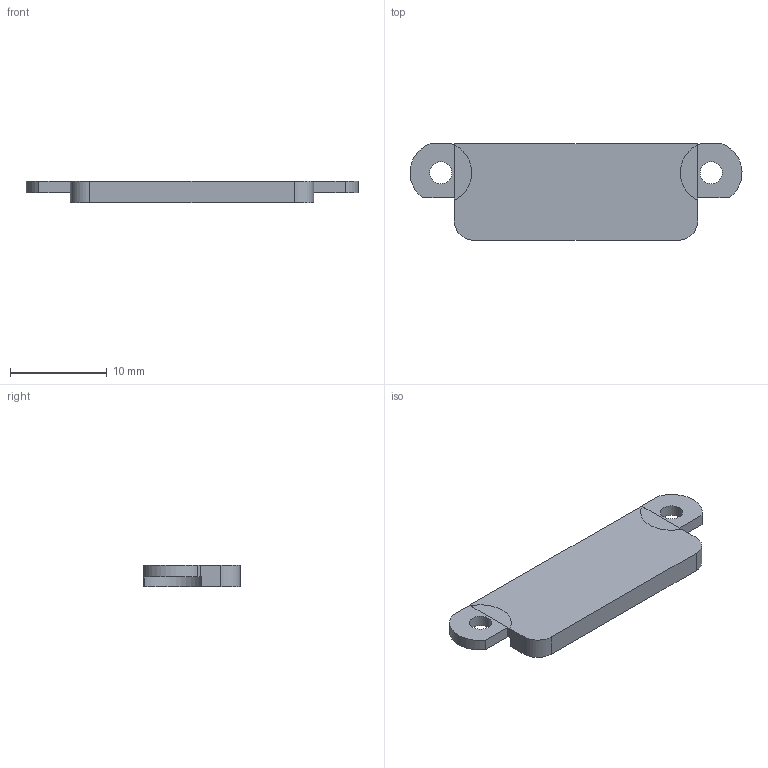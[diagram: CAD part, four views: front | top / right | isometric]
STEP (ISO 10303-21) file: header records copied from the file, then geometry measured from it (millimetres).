
FILE_DESCRIPTION(/* description */ (''),/* implementation_level */ '2;1');
FILE_NAME(/* name */ 'P16.step',/* time_stamp */ '2026-09-15T15:15:15-07:00',/* author */ (''),/* organization */ (''),/* preprocessor_version */ 'ST-DEVELOPER v20.1',/* originating_system */ 'Autodesk Translation Framework v15.8.0.0',/* authorisation */ '');
FILE_SCHEMA (('AUTOMOTIVE_DESIGN { 1 0 10303 214 3 1 1 }'));
Length unit declared in the file: millimetre
Products named in the file (1): 2026-09-15-15-15-15-400
Bounding box: 34.39 x 10 x 2.2 mm (x, y, z)
Volume: 579.5 mm3; surface area: 764.5 mm2
Topology: 1 solids, 1 shells, 30 faces, 78 edges, 50 vertices
Faces by surface type: plane 18, cylinder 12
Full cylindrical faces by diameter (mm): 2.3 x2
Entity records: 965 total; most frequent: DIRECTION 170, CARTESIAN_POINT 159, ORIENTED_EDGE 156, EDGE_CURVE 78, AXIS2_PLACEMENT_3D 61, VERTEX_POINT 50, LINE 48, VECTOR 48
